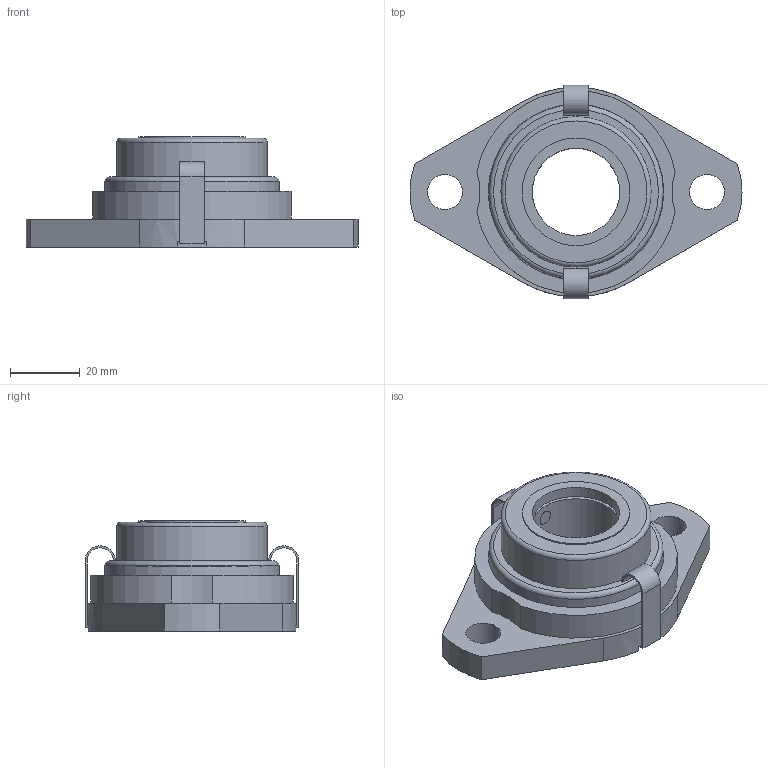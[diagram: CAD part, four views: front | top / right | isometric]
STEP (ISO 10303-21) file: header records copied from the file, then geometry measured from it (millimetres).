
FILE_DESCRIPTION((''),'2;1');
FILE_NAME('\\Ts-tgl068\j-cad-d-base\00.3DCADデータ作成フォルダ\11.エコシリーズ\MUSFL000\MUSFL005C.stp','2014-11-12T09:43:04',('btec_1106_2'),(''),'Autodesk Inventor 2012','Autodesk Inventor 2012','');
FILE_SCHEMA(('AUTOMOTIVE_DESIGN { 1 0 10303 214 1 1 1 1 }'));
Length unit declared in the file: millimetre
Products named in the file (5): MUSFL000C(E); SFL005; U005; 05-6CP25; 4-5CLL
Assembly tree (5 placements, depth 2):
  MUSFL000C(E)
    SFL005
    U005
    05-6CP25
    4-5CLL  x2
Bounding box: 95 x 61.2 x 31.5 mm (x, y, z)
Volume: 45038 mm3; surface area: 27544.7 mm2
Topology: 5 solids, 5 shells, 113 faces, 266 edges, 173 vertices
Faces by surface type: plane 62, cylinder 42, torus 4, cone 3, sphere 2
Full cylindrical faces by diameter (mm): 3.5 x1, 10 x2, 25 x2, 30.8 x2, 31.7 x1, 36 x1, 42.4 x1, 43 x1, 49.2 x1, 49.8 x1, 50.2 x1
Entity records: 3079 total; most frequent: CARTESIAN_POINT 611, DIRECTION 520, ORIENTED_EDGE 422, EDGE_CURVE 211, AXIS2_PLACEMENT_3D 203, VERTEX_POINT 151, EDGE_LOOP 150, VECTOR 114
